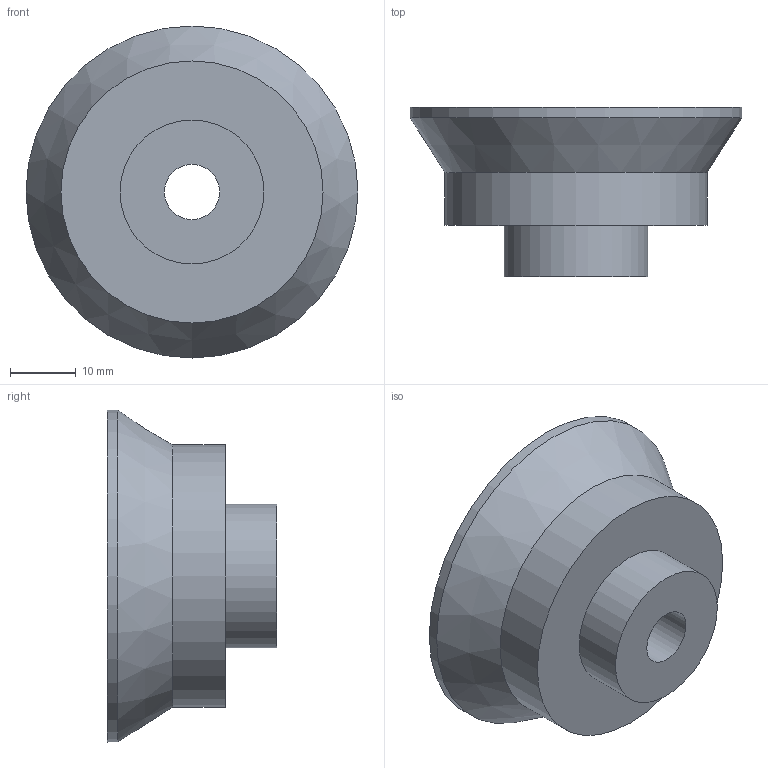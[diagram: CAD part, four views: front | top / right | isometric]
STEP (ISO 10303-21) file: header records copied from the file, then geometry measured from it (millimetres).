
FILE_DESCRIPTION (( 'STEP AP214' ), '1' );
FILE_NAME ('10F.050.100.STEP', '2026-01-12T19:51:54', ( '' ), ( '' ), 'SwSTEP 2.0', 'SolidWorks 2025', '' );
FILE_SCHEMA (( 'AUTOMOTIVE_DESIGN' ));
Length unit declared in the file: millimetre
Products named in the file (1): 10F.050.100
Bounding box: 50.4 x 25.71 x 50.4 mm (x, y, z)
Volume: 18033.3 mm3; surface area: 7579.3 mm2
Topology: 1 solids, 1 shells, 48 faces, 104 edges, 69 vertices
Faces by surface type: plane 25, cylinder 21, cone 2
Full cylindrical faces by diameter (mm): 2.7 x3, 8.4 x1, 13 x1, 21.85 x1, 32 x1, 39.8 x1, 50.4 x1
Entity records: 1267 total; most frequent: DIRECTION 230, CARTESIAN_POINT 205, ORIENTED_EDGE 180, AXIS2_PLACEMENT_3D 91, EDGE_CURVE 90, EDGE_LOOP 72, VERTEX_POINT 66, FACE_OUTER_BOUND 57
